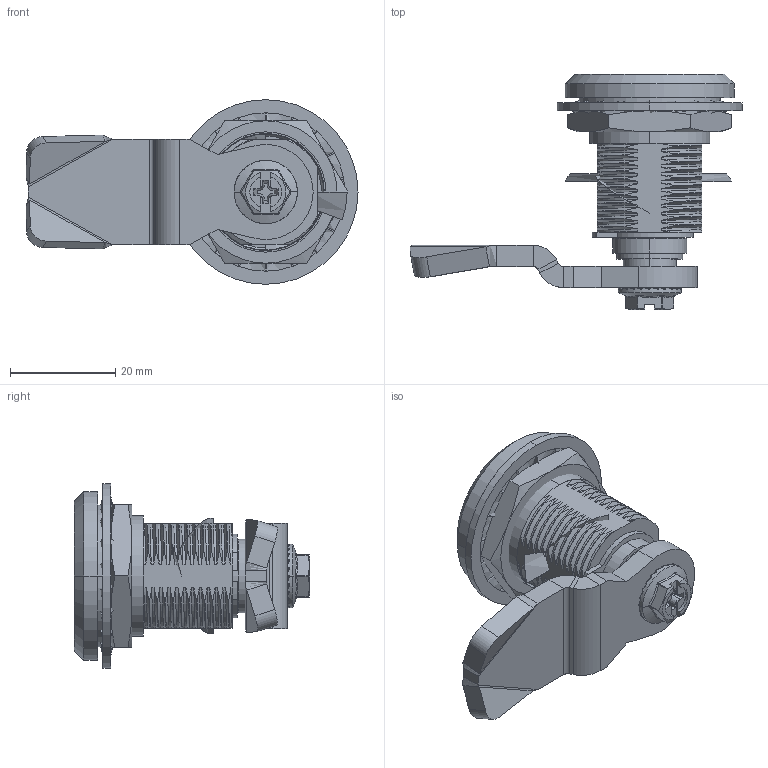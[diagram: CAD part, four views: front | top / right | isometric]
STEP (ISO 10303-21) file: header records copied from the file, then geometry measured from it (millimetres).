
FILE_DESCRIPTION((''),'2;1');
FILE_NAME('3SJ-MS816-4E-Y-0001_ASM','2021-08-09T17:25:11',('013797'),(''),'CREO PARAMETRIC BY PTC INC, 2020342','CREO PARAMETRIC BY PTC INC, 2020342','');
FILE_SCHEMA(('CONFIG_CONTROL_DESIGN'));
Products named in the file (14): 8SJ_MS816-4E_0010Y; 8SJ_MS816-4E_0590Y; 12_9-GB_T894_1-1986; 8SJ_MS816-4E-Y_0040-SIFANG7_7; 17_1_9-GB3452_1-92; 8SJ_MS816-4E_0570; 8SJ_MS816-4E_0090; 8SJ_MS816-4E_0710_AF0; S1BXILIEGANGSHUAN; SW6X8; 8SJ_MS705-8B-1D_0510; 8SJ_MS317_0530; 8SJ_MS705_0760; 3SJ-MS816-4E-Y-0001_ASM
Assembly tree (13 placements, depth 2):
  3SJ-MS816-4E-Y-0001_ASM
    8SJ_MS816-4E_0010Y
    8SJ_MS816-4E_0590Y
    12_9-GB_T894_1-1986
    8SJ_MS816-4E-Y_0040-SIFANG7_7
    17_1_9-GB3452_1-92
    8SJ_MS816-4E_0570
    8SJ_MS816-4E_0090
    8SJ_MS816-4E_0710_AF0
    S1BXILIEGANGSHUAN
    SW6X8
    8SJ_MS705-8B-1D_0510
    8SJ_MS317_0530
    8SJ_MS705_0760
Bounding box: 62.95 x 44.6 x 35 mm (x, y, z)
Volume: 16648 mm3; surface area: 20323.6 mm2
Topology: 14 solids, 24 shells, 1076 faces, 2770 edges, 1737 vertices
Faces by surface type: bspline 419, cylinder 272, plane 247, sphere 52, cone 40, torus 28, extrusion 18
Entity records: 97155 total; most frequent: CARTESIAN_POINT 73988, ORIENTED_EDGE 5482, DIRECTION 3548, EDGE_CURVE 2762, VERTEX_POINT 1737, AXIS2_PLACEMENT_3D 1252, B_SPLINE_CURVE_WITH_KNOTS 1178, EDGE_LOOP 1116
